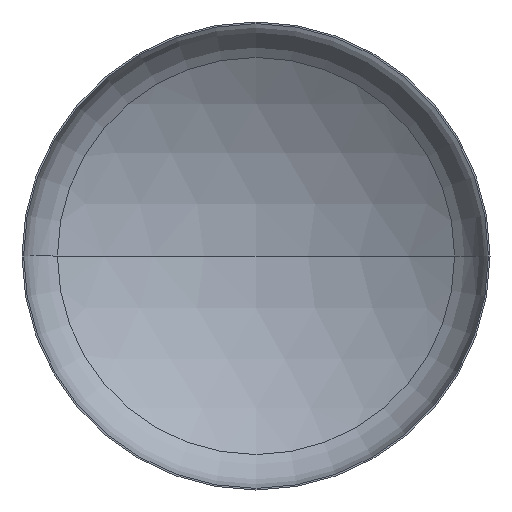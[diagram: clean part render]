
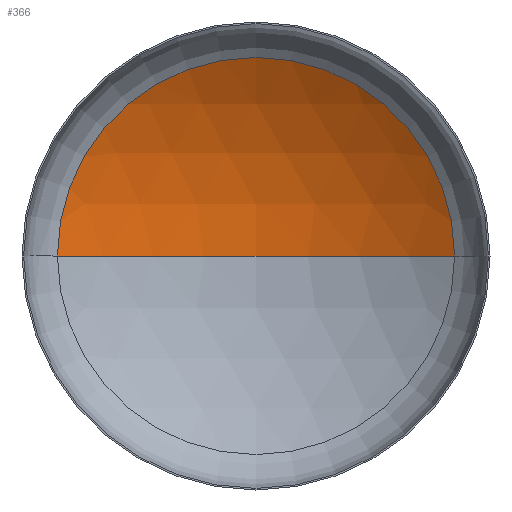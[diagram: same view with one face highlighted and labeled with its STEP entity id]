
A CAD part, front view. The second image highlights one B-rep face of the part: STEP entity #366.
In plain terms, the highlighted spherical face has radius 3200 mm.
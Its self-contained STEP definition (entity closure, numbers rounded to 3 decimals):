
#9 = VERTEX_POINT ( 'NONE', #256 ) ;
#23 = EDGE_LOOP ( 'NONE', ( #169, #370, #294 ) ) ;
#40 = DIRECTION ( 'NONE',  ( 0., 0., -1. ) ) ;
#54 = CIRCLE ( 'NONE', #189, 3200. ) ;
#58 = VERTEX_POINT ( 'NONE', #217 ) ;
#77 = CARTESIAN_POINT ( 'NONE',  ( 0., -2146.48, 0. ) ) ;
#86 = DIRECTION ( 'NONE',  ( 0., 0., -1. ) ) ;
#89 = DIRECTION ( 'NONE',  ( -1., 0., 0. ) ) ;
#96 = CARTESIAN_POINT ( 'NONE',  ( 0., -2146.48, 0. ) ) ;
#100 = VERTEX_POINT ( 'NONE', #157 ) ;
#136 = DIRECTION ( 'NONE',  ( 1., 0., 0. ) ) ;
#143 = CARTESIAN_POINT ( 'NONE',  ( 0., -2146.48, 0. ) ) ;
#144 = AXIS2_PLACEMENT_3D ( 'NONE', #143, #374, #391 ) ;
#157 = CARTESIAN_POINT ( 'NONE',  ( 1697.176, 566.377, 0. ) ) ;
#169 = ORIENTED_EDGE ( 'NONE', *, *, #277, .F. ) ;
#189 = AXIS2_PLACEMENT_3D ( 'NONE', #96, #86, #89 ) ;
#216 = AXIS2_PLACEMENT_3D ( 'NONE', #321, #297, #136 ) ;
#217 = CARTESIAN_POINT ( 'NONE',  ( -1697.176, 566.377, 0. ) ) ;
#218 = FACE_OUTER_BOUND ( 'NONE', #23, .T. ) ;
#243 = CIRCLE ( 'NONE', #144, 3200. ) ;
#256 = CARTESIAN_POINT ( 'NONE',  ( 0., 1053.52, 0. ) ) ;
#277 = EDGE_CURVE ( 'NONE', #9, #58, #243, .T. ) ;
#285 = SPHERICAL_SURFACE ( 'NONE', #360, 3200. ) ;
#294 = ORIENTED_EDGE ( 'NONE', *, *, #316, .T. ) ;
#297 = DIRECTION ( 'NONE',  ( 0., -1., 0. ) ) ;
#300 = EDGE_CURVE ( 'NONE', #9, #100, #54, .T. ) ;
#316 = EDGE_CURVE ( 'NONE', #100, #58, #369, .T. ) ;
#321 = CARTESIAN_POINT ( 'NONE',  ( 0., 566.377, 0. ) ) ;
#336 = DIRECTION ( 'NONE',  ( -1., 0., 0. ) ) ;
#360 = AXIS2_PLACEMENT_3D ( 'NONE', #77, #40, #336 ) ;
#366 = ADVANCED_FACE ( 'NONE', ( #218 ), #285, .F. ) ;
#369 = CIRCLE ( 'NONE', #216, 1697.176 ) ;
#370 = ORIENTED_EDGE ( 'NONE', *, *, #300, .T. ) ;
#374 = DIRECTION ( 'NONE',  ( 0., 0., 1. ) ) ;
#391 = DIRECTION ( 'NONE',  ( 1., 0., 0. ) ) ;
